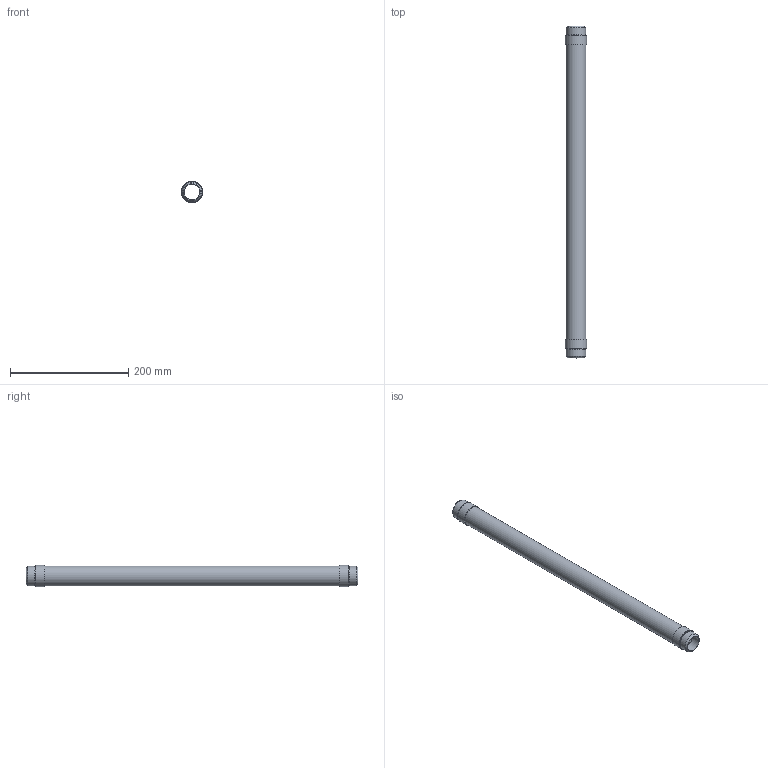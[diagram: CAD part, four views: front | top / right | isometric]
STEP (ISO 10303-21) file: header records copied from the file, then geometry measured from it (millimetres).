
FILE_DESCRIPTION(/* description */ (''),/* implementation_level */ '2;1');
FILE_NAME(/* name */ 'C:\001_Work\Designs\CSAWN\CSAWN-1x22.125.stp',/* time_stamp */ '2016-06-04T16:41:35-04:00',/* author */ ('rramoutar'),/* organization */ ('Mason Industries Inc.'),/* preprocessor_version */ 'ST-DEVELOPER v15.6',/* originating_system */ 'Autodesk Inventor 2015',/* authorisation */ '');
FILE_SCHEMA (('CONFIG_CONTROL_DESIGN'));
Length unit declared in the file: inch
Products named in the file (1): CSAWN-1x22.125
Bounding box: 36.01 x 561.98 x 36.01 mm (x, y, z)
Volume: 30583.5 mm3; surface area: 125869.1 mm2
Topology: 5 solids, 5 shells, 24 faces, 40 edges, 26 vertices
Faces by surface type: cylinder 10, plane 10, cone 4
Full cylindrical faces by diameter (mm): 26.645 x2, 33.02 x1, 33.401 x2, 33.63 x3, 36.011 x2
Entity records: 564 total; most frequent: DIRECTION 98, CARTESIAN_POINT 73, AXIS2_PLACEMENT_3D 49, EDGE_LOOP 48, ORIENTED_EDGE 48, STYLED_ITEM 29, FACE_BOUND 24, FACE_OUTER_BOUND 24
